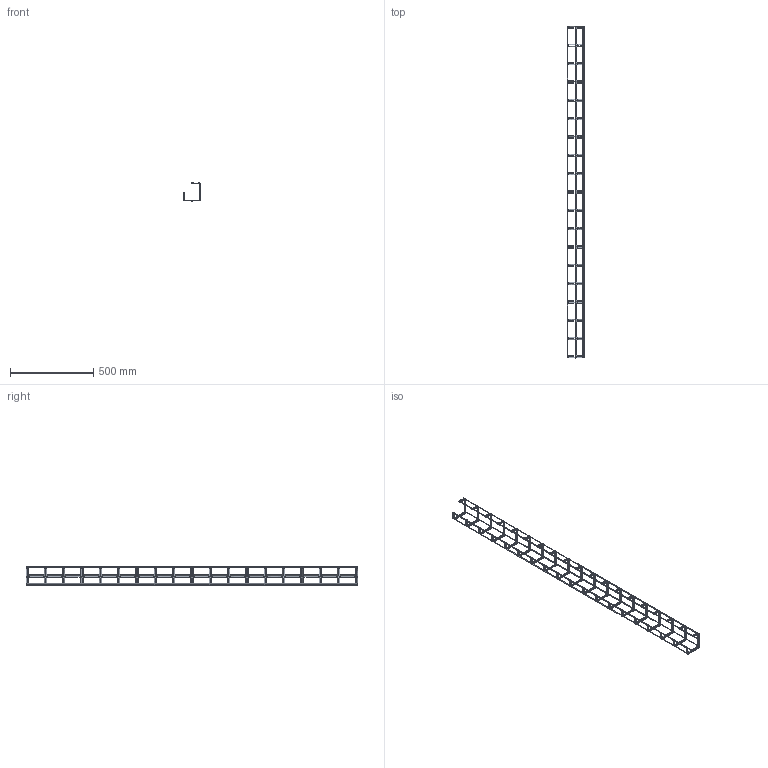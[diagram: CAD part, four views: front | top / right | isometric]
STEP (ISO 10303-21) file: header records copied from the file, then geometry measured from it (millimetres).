
FILE_DESCRIPTION(/* description */ (''),/* implementation_level */ '2;1');
FILE_NAME(/* name */ 'M2_100×100_G',/* time_stamp */ '2012-11-29T22:02:36+01:00',/* author */ (''),/* organization */ (''),/* preprocessor_version */ 'ST-DEVELOPER v10',/* originating_system */ '',/* authorisation */ '');
FILE_SCHEMA (('AUTOMOTIVE_DESIGN_CC2'));
Length unit declared in the file: millimetre
Products named in the file (1): 1
Bounding box: 105.52 x 1993.51 x 113.49 mm (x, y, z)
Surface area: 298755.8 mm2 (no closed solid volume)
Topology: 0 solids, 397 shells, 780 faces, 2313 edges, 1548 vertices
Faces by surface type: bspline 766, plane 14
Entity records: 62846 total; most frequent: CARTESIAN_POINT 48310, ORIENTED_EDGE 3078, EDGE_CURVE 2312, VERTEX_POINT 1546, ADVANCED_FACE 780, FACE_OUTER_BOUND 780, EDGE_LOOP 780, B_SPLINE_CURVE_WITH_KNOTS 762
